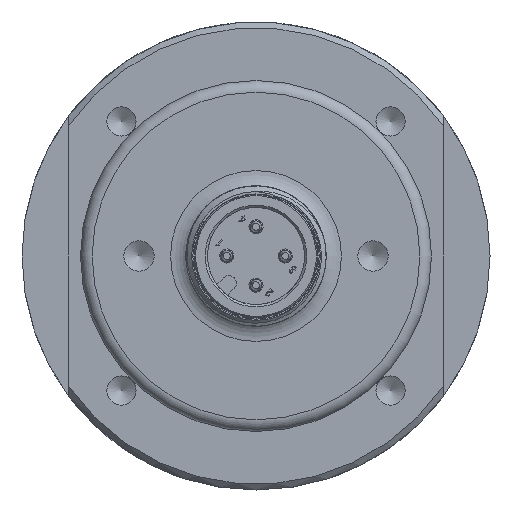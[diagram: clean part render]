
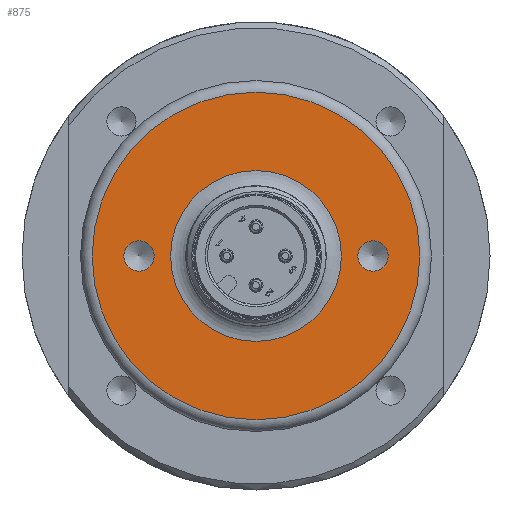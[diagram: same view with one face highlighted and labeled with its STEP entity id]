
A CAD part, front view. The second image highlights one B-rep face of the part: STEP entity #875.
In plain terms, the highlighted planar face has unit normal (0, -1, 0) as drawn and (0, 1, 0) by its records, which use the part's own axes.
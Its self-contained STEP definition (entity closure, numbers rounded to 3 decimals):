
#875 = ADVANCED_FACE( '', ( #1728, #1729, #1730, #1731 ), #1732, .T. );
#1728 = FACE_BOUND( '', #6402, .T. );
#1729 = FACE_OUTER_BOUND( '', #6403, .T. );
#1730 = FACE_BOUND( '', #6404, .T. );
#1731 = FACE_BOUND( '', #6405, .T. );
#1732 = PLANE( '', #6406 );
#6402 = EDGE_LOOP( '', ( #8315 ) );
#6403 = EDGE_LOOP( '', ( #8316 ) );
#6404 = EDGE_LOOP( '', ( #8317 ) );
#6405 = EDGE_LOOP( '', ( #8318 ) );
#6406 = AXIS2_PLACEMENT_3D( '', #8319, #8320, #8321 );
#8315 = ORIENTED_EDGE( '', *, *, #8965, .T. );
#8316 = ORIENTED_EDGE( '', *, *, #8648, .T. );
#8317 = ORIENTED_EDGE( '', *, *, #8934, .T. );
#8318 = ORIENTED_EDGE( '', *, *, #8924, .T. );
#8319 = CARTESIAN_POINT( '', ( -15., -2.104, 0. ) );
#8320 = DIRECTION( '', ( 0., 1., 0. ) );
#8321 = DIRECTION( '', ( -1., 0., 0. ) );
#8648 = EDGE_CURVE( '', #9438, #9438, #9439, .T. );
#8924 = EDGE_CURVE( '', #9829, #9829, #9830, .T. );
#8934 = EDGE_CURVE( '', #9842, #9842, #9843, .T. );
#8965 = EDGE_CURVE( '', #9873, #9873, #9874, .F. );
#9438 = VERTEX_POINT( '', #12102 );
#9439 = CIRCLE( '', #12103, 14. );
#9829 = VERTEX_POINT( '', #13865 );
#9830 = CIRCLE( '', #13866, 1.3 );
#9842 = VERTEX_POINT( '', #13880 );
#9843 = CIRCLE( '', #13881, 1.3 );
#9873 = VERTEX_POINT( '', #13920 );
#9874 = CIRCLE( '', #13921, 7.3 );
#12102 = CARTESIAN_POINT( '', ( -14., -2.104, 0. ) );
#12103 = AXIS2_PLACEMENT_3D( '', #14251, #14252, #14253 );
#13865 = CARTESIAN_POINT( '', ( -1.3, -2.104, 10. ) );
#13866 = AXIS2_PLACEMENT_3D( '', #14508, #14509, #14510 );
#13880 = CARTESIAN_POINT( '', ( -1.3, -2.104, -10. ) );
#13881 = AXIS2_PLACEMENT_3D( '', #14519, #14520, #14521 );
#13920 = CARTESIAN_POINT( '', ( -7.3, -2.104, 0. ) );
#13921 = AXIS2_PLACEMENT_3D( '', #14534, #14535, #14536 );
#14251 = CARTESIAN_POINT( '', ( 0., -2.104, 0. ) );
#14252 = DIRECTION( '', ( 0., 1., 0. ) );
#14253 = DIRECTION( '', ( -1., 0., 0. ) );
#14508 = CARTESIAN_POINT( '', ( 0., -2.104, 10. ) );
#14509 = DIRECTION( '', ( 0., -1., 0. ) );
#14510 = DIRECTION( '', ( -1., 0., 0. ) );
#14519 = CARTESIAN_POINT( '', ( 0., -2.104, -10. ) );
#14520 = DIRECTION( '', ( 0., -1., 0. ) );
#14521 = DIRECTION( '', ( -1., 0., 0. ) );
#14534 = CARTESIAN_POINT( '', ( 0., -2.104, 0. ) );
#14535 = DIRECTION( '', ( 0., 1., 0. ) );
#14536 = DIRECTION( '', ( -1., 0., 0. ) );
